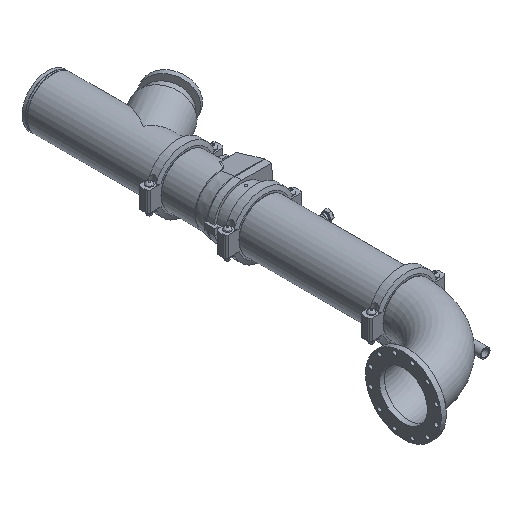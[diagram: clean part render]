
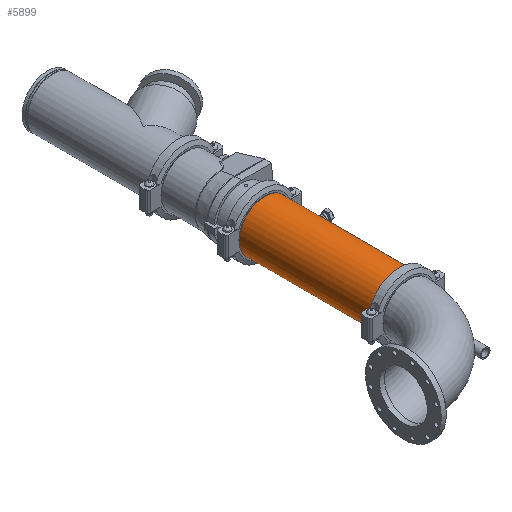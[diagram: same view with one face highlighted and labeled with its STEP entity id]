
A CAD part, isometric view. The second image highlights one B-rep face of the part: STEP entity #5899.
In plain terms, the highlighted cylindrical face has radius 161.925 mm (diameter 323.85 mm), a full revolution.
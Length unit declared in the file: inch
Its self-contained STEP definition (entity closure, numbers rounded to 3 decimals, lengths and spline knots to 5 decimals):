
#151=LINE('',#8990,#575);
#575=VECTOR('',#7152,6.375);
#999=CYLINDRICAL_SURFACE('',#6422,6.375);
#1210=FACE_OUTER_BOUND('',#1544,.T.);
#1544=EDGE_LOOP('',(#3721,#3722,#3723,#3724,#3725,#3726));
#1972=CIRCLE('',#6420,6.375);
#1973=CIRCLE('',#6421,6.375);
#1974=CIRCLE('',#6423,6.375);
#1975=CIRCLE('',#6424,6.375);
#2318=VERTEX_POINT('',#8981);
#2319=VERTEX_POINT('',#8982);
#2320=VERTEX_POINT('',#8986);
#2321=VERTEX_POINT('',#8987);
#2887=EDGE_CURVE('',#2318,#2319,#1972,.T.);
#2888=EDGE_CURVE('',#2319,#2318,#1973,.T.);
#2889=EDGE_CURVE('',#2320,#2321,#1974,.T.);
#2890=EDGE_CURVE('',#2321,#2320,#1975,.T.);
#2891=EDGE_CURVE('',#2321,#2319,#151,.T.);
#3721=ORIENTED_EDGE('',*,*,#2889,.F.);
#3722=ORIENTED_EDGE('',*,*,#2890,.F.);
#3723=ORIENTED_EDGE('',*,*,#2891,.T.);
#3724=ORIENTED_EDGE('',*,*,#2888,.T.);
#3725=ORIENTED_EDGE('',*,*,#2887,.T.);
#3726=ORIENTED_EDGE('',*,*,#2891,.F.);
#5899=ADVANCED_FACE('',(#1210),#999,.T.);
#6420=AXIS2_PLACEMENT_3D('',#8983,#7142,#7143);
#6421=AXIS2_PLACEMENT_3D('',#8984,#7144,#7145);
#6422=AXIS2_PLACEMENT_3D('',#8985,#7146,#7147);
#6423=AXIS2_PLACEMENT_3D('',#8988,#7148,#7149);
#6424=AXIS2_PLACEMENT_3D('',#8989,#7150,#7151);
#7142=DIRECTION('center_axis',(1.,0.,0.));
#7143=DIRECTION('ref_axis',(0.,0.,-1.));
#7144=DIRECTION('center_axis',(1.,0.,0.));
#7145=DIRECTION('ref_axis',(0.,0.,-1.));
#7146=DIRECTION('center_axis',(1.,0.,0.));
#7147=DIRECTION('ref_axis',(0.,1.,0.));
#7148=DIRECTION('center_axis',(1.,0.,0.));
#7149=DIRECTION('ref_axis',(0.,0.,-1.));
#7150=DIRECTION('center_axis',(1.,0.,0.));
#7151=DIRECTION('ref_axis',(0.,0.,-1.));
#7152=DIRECTION('',(-1.,0.,0.));
#8981=CARTESIAN_POINT('',(-16.77725,6.375,0.));
#8982=CARTESIAN_POINT('',(-16.77725,-6.375,0.));
#8983=CARTESIAN_POINT('Origin',(-16.77725,0.,0.));
#8984=CARTESIAN_POINT('Origin',(-16.77725,0.,0.));
#8985=CARTESIAN_POINT('Origin',(0.,0.,0.));
#8986=CARTESIAN_POINT('',(16.77725,6.375,0.));
#8987=CARTESIAN_POINT('',(16.77725,-6.375,0.));
#8988=CARTESIAN_POINT('Origin',(16.77725,0.,0.));
#8989=CARTESIAN_POINT('Origin',(16.77725,0.,0.));
#8990=CARTESIAN_POINT('',(0.,-6.375,0.));
